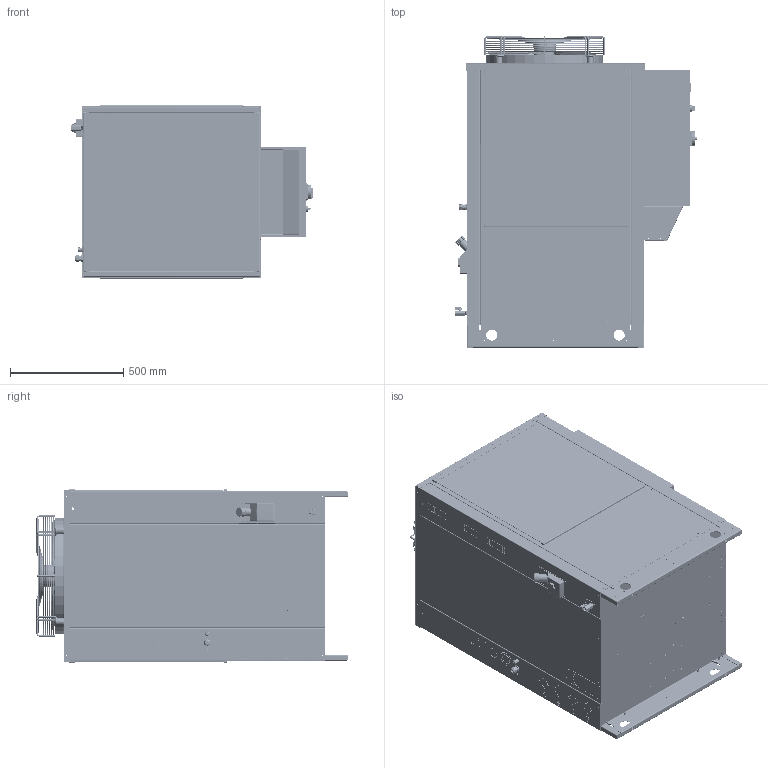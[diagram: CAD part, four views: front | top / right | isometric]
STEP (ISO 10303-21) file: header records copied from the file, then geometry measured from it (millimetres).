
FILE_DESCRIPTION (( 'STEP AP203' ), '1' );
FILE_NAME ('COPIA_F2-2C_UL_REV_00.STEP', '2026-07-22T12:57:24', ( '' ), ( '' ), 'SwSTEP 2.0', 'SolidWorks 2023', '' );
FILE_SCHEMA (( 'CONFIG_CONTROL_DESIGN' ));
Length unit declared in the file: millimetre
Products named in the file (83): COPIA_CR-2F-00007_004; COPIA_PG 9_Cable-Gland-1.209.0900.14-Nelco; COPIA_T06-0207_DX; COPIA_VE-W5-00007_04; COPIA_VE-W5-00007_02; COPIA_SEZIONATORE-GR_D2; COPIA_VR-2F-00010_000; COPIA_TAPPO 1P  FEM ; COPIA_H48-0024_DX; COPIA_PG 9_2_Nut-PA-Grey-19-19-22-Nelco; COPIA_350-022; COPIA_T06-0208_DX; COPIA_CR-2F-00005_004; COPIA_FI-A4-00001_000; COPIA_PG-16; COPIA_T09-0001_DX; COPIA_VE-W5-00007_03; COPIA_VR-2F-00012_001; COPIA_CO-MI-00016  X0-CD0232-00(2)_DX_senza bicchiere; COPIA_T04-0187_DX; COPIA_VR-2F-00012_001D_68X34; COPIA_SE-RR-00025_000; COPIA_VR-2F-00012_001B; COPIA_D01-CD0230P_DX; COPIA_CR-2F-00006_002B; COPIA_VR-2F-00007_004; COPIA_T09-0002_DX; COPIA_Y0-CD0232_DX; COPIA_G72-0024_DX; COPIA_FILETTO_RUBINETTO_VA-A5-00001; COPIA_T09-0146_DX; COPIA_VE-W5-00007_ELICA; COPIA_VASCHETTA F2 COND DX 32_senza bicchiere; COPIA_50-2F-00001-2_50-2F-00001; COPIA_B72-0268_DX; COPIA_CR-2F-00008; COPIA_WE-W5-00007; COPIA_VR-2F-00003_001; COPIA_COMPONENTI_VENTOLA_40-MI-E0007; COPIA_T03-0044_DX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
Assembly tree (165 placements, depth 8):
  COPIA_F2-2C_UL_REV_00
    COPIA_40-MI-E0007
      COPIA_50-2F-00001-2_50-2F-00001
        COPIA_VR-2F-00003_001
          COPIA_VR-2F-00003_001
          COPIA_RIVELOX M5  x24
        COPIA_VR-2F-00007_004
        COPIA_VR-2F-00008_003
        COPIA_VR-2F-00005_003
        COPIA_VR-2F-00006_003
        COPIA_CR-2F-00005_004
        COPIA_CR-2F-00006_003
          COPIA_CR-2F-00006_003A
          COPIA_CR-2F-00006_002B
        COPIA_VR-2F-00009_001
        COPIA_CR-2F-00007_004
          COPIA_CR-2F-00007_004
          COPIA_RIVELOX M5  x6
        COPIA_VR-2F-00010_000
        COPIA_VASCHETTA F2 COND DX 32_senza bicchiere
          COPIA_CO-MI-00016  X0-CD0232-00_DX_senza bicchiere 
            COPIA_CO-MI-00016  X0-CD0232-00(2)_DX_senza bicchiere
              COPIA_Y0-CD0232_DX
                COPIA_H48-0020_DX
                COPIA_H48-0024_DX
                COPIA_S82b-0690_DX  x10
                COPIA_B72-0268_DX  x10
                COPIA_D01-CD0230P_DX  x2
                COPIA_T03-0044_DX  x3
                COPIA_T04-0187_DX  x4
                COPIA_T06-0208_DX
                COPIA_T06-0207_DX
              COPIA_G82-0010_DX
              COPIA_G72-0024_DX
              COPIA_T09-0001_DX
              COPIA_T09-0146_DX
              COPIA_T09-0002_DX
          COPIA_PiedeCondensatoreDanfossD38  x4
          COPIA_CR-2F-00004_001
          COPIA_CR-2F-00003_000
        COPIA_VR-2F-00011_000
        COPIA_VR-2F-00012_001
          COPIA_VR-2F-00012_001D_68X34
          COPIA_VR-2F-00012_001C
          COPIA_VR-2F-00012_001B
        COPIA_FI-A4-00001_000  x2
        COPIA_VR-2F-00002_001
        COPIA_VR-2F-00012_001
          COPIA_VR-2F-00012_001C
          COPIA_VR-2F-00012_001B
        COPIA_MOUSSE_ADESIVA_20X10_L645  x2
        COPIA_MOUSSE_ADESIVA_20X10_L659  x2
        COPIA_CR-2F-00008
      COPIA_COMPONENTI_VENTOLA_40-MI-E0007
        COPIA_AN-PI-00022  x4
        COPIA_WE-W5-00007
          COPIA_350-012-C
          COPIA_6D-400-S-018-2_22_AF0
          COPIA_PRT0002_11_AF0
          COPIA_6D-400-S-012_2_AF0
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Bounding box: 1070.49 x 1374.2 x 767 mm (x, y, z)
Volume: 59841421 mm3; surface area: 20174333.6 mm2
Topology: 264 solids, 359 shells, 15618 faces, 40417 edges, 25409 vertices
Faces by surface type: plane 7544, cylinder 3801, bspline 2875, cone 801, torus 486, sphere 111
Entity records: 571236 total; most frequent: CARTESIAN_POINT 264978, ORIENTED_EDGE 68239, DIRECTION 49728, EDGE_CURVE 34341, VERTEX_POINT 21574, AXIS2_PLACEMENT_3D 16625, LINE 16478, VECTOR 16478
